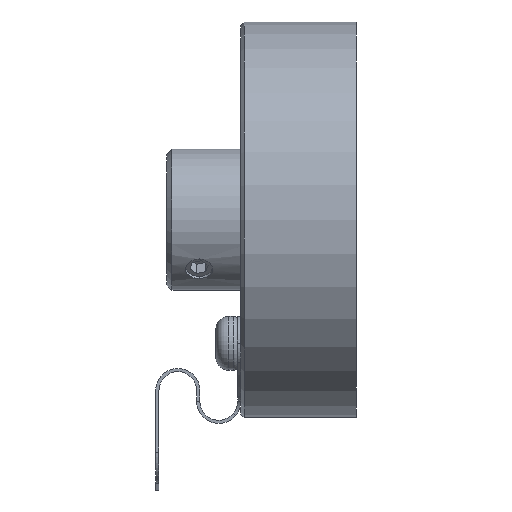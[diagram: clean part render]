
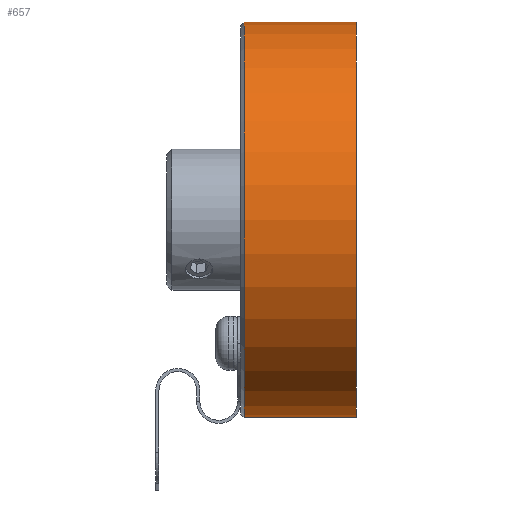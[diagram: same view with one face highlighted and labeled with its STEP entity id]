
A CAD part, front view. The second image highlights one B-rep face of the part: STEP entity #657.
In plain terms, the highlighted cylindrical face has radius 18.25 mm (diameter 36.5 mm), a partial arc.
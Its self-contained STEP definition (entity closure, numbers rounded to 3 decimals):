
#189 = EDGE_CURVE ( 'NONE', #5608, #487, #9631, .T. ) ;
#356 = EDGE_CURVE ( 'NONE', #2725, #5676, #11928, .T. ) ;
#487 = VERTEX_POINT ( 'NONE', #5064 ) ;
#657 = ADVANCED_FACE ( 'NONE', ( #11577 ), #2567, .T. ) ;
#670 = CARTESIAN_POINT ( 'NONE',  ( -1.3, 0., 0. ) ) ;
#707 = CARTESIAN_POINT ( 'NONE',  ( -1000., 0., 18.25 ) ) ;
#2567 = CYLINDRICAL_SURFACE ( 'NONE', #7871, 18.25 ) ;
#2725 = VERTEX_POINT ( 'NONE', #4388 ) ;
#3086 = CARTESIAN_POINT ( 'NONE',  ( -1.3, 0., 18.25 ) ) ;
#3142 = ORIENTED_EDGE ( 'NONE', *, *, #8191, .F. ) ;
#3151 = ORIENTED_EDGE ( 'NONE', *, *, #356, .T. ) ;
#3836 = DIRECTION ( 'NONE',  ( -1., 0., 0. ) ) ;
#3891 = CARTESIAN_POINT ( 'NONE',  ( -11.65, 0., 18.25 ) ) ;
#3909 = ORIENTED_EDGE ( 'NONE', *, *, #10032, .T. ) ;
#3928 = DIRECTION ( 'NONE',  ( 0., 0., 1. ) ) ;
#4388 = CARTESIAN_POINT ( 'NONE',  ( -1.3, 0., -18.25 ) ) ;
#4610 = AXIS2_PLACEMENT_3D ( 'NONE', #670, #3836, #3928 ) ;
#5064 = CARTESIAN_POINT ( 'NONE',  ( -11.65, 0., -18.25 ) ) ;
#5570 = AXIS2_PLACEMENT_3D ( 'NONE', #9866, #6811, #8972 ) ;
#5608 = VERTEX_POINT ( 'NONE', #3891 ) ;
#5676 = VERTEX_POINT ( 'NONE', #3086 ) ;
#5929 = LINE ( 'NONE', #707, #10181 ) ;
#5976 = DIRECTION ( 'NONE',  ( -1., 0., 0. ) ) ;
#6811 = DIRECTION ( 'NONE',  ( 1., 0., 0. ) ) ;
#6819 = EDGE_LOOP ( 'NONE', ( #3142, #3151, #3909, #7584 ) ) ;
#7113 = DIRECTION ( 'NONE',  ( -1., 0., 0. ) ) ;
#7584 = ORIENTED_EDGE ( 'NONE', *, *, #189, .T. ) ;
#7871 = AXIS2_PLACEMENT_3D ( 'NONE', #8743, #8418, #8376 ) ;
#8038 = CARTESIAN_POINT ( 'NONE',  ( -1000., 0., -18.25 ) ) ;
#8191 = EDGE_CURVE ( 'NONE', #2725, #487, #13211, .T. ) ;
#8376 = DIRECTION ( 'NONE',  ( 0., 0., 1. ) ) ;
#8418 = DIRECTION ( 'NONE',  ( -1., 0., 0. ) ) ;
#8743 = CARTESIAN_POINT ( 'NONE',  ( -1000., 0., 0. ) ) ;
#8972 = DIRECTION ( 'NONE',  ( 0., 0., 1. ) ) ;
#9631 = CIRCLE ( 'NONE', #5570, 18.25 ) ;
#9866 = CARTESIAN_POINT ( 'NONE',  ( -11.65, 0., 0. ) ) ;
#10032 = EDGE_CURVE ( 'NONE', #5676, #5608, #5929, .T. ) ;
#10181 = VECTOR ( 'NONE', #5976, 1000. ) ;
#10560 = VECTOR ( 'NONE', #7113, 1000. ) ;
#11577 = FACE_OUTER_BOUND ( 'NONE', #6819, .T. ) ;
#11928 = CIRCLE ( 'NONE', #4610, 18.25 ) ;
#13211 = LINE ( 'NONE', #8038, #10560 ) ;
